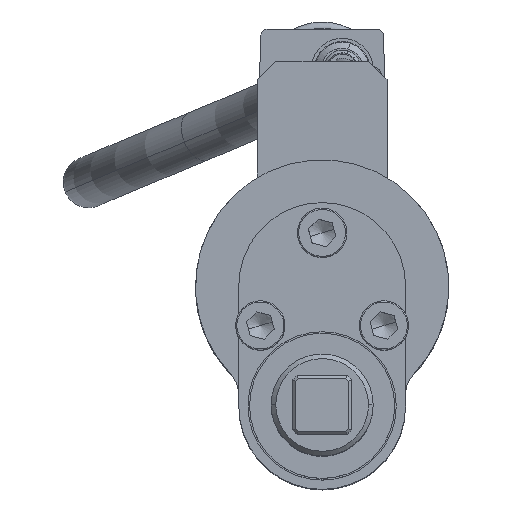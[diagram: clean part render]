
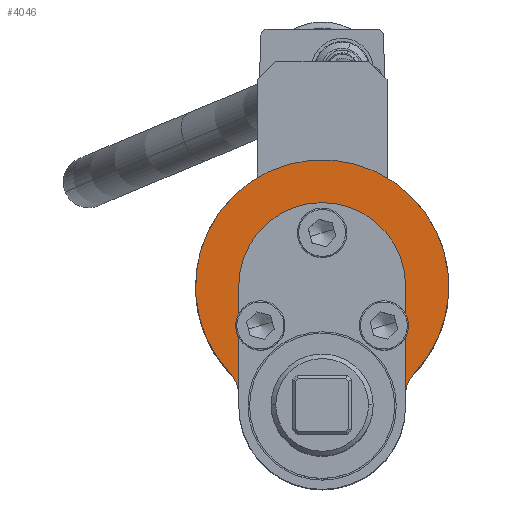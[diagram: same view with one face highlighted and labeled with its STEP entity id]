
A CAD part, top view. The second image highlights one B-rep face of the part: STEP entity #4046.
In plain terms, the highlighted planar face has unit normal (0, 0, 1).
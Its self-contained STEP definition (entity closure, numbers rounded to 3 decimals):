
#3885=AXIS2_PLACEMENT_3D('Circle Axis2P3D',#3883,#3884,$) ;
#3980=AXIS2_PLACEMENT_3D('Circle Axis2P3D',#3978,#3979,$) ;
#4004=AXIS2_PLACEMENT_3D('Circle Axis2P3D',#4002,#4003,$) ;
#4017=AXIS2_PLACEMENT_3D('Plane Axis2P3D',#4014,#4015,#4016) ;
#4028=AXIS2_PLACEMENT_3D('Circle Axis2P3D',#4026,#4027,$) ;
#3873=CARTESIAN_POINT('Vertex',(29.745,-28.218,482.6)) ;
#3880=CARTESIAN_POINT('Vertex',(-29.745,-28.218,482.6)) ;
#3883=CARTESIAN_POINT('Axis2P3D Location',(0.,0.,482.6)) ;
#3975=CARTESIAN_POINT('Vertex',(27.,-35.1,482.6)) ;
#3978=CARTESIAN_POINT('Axis2P3D Location',(37.,-35.1,482.6)) ;
#3999=CARTESIAN_POINT('Vertex',(-27.,-35.1,482.6)) ;
#4002=CARTESIAN_POINT('Axis2P3D Location',(-37.,-35.1,482.6)) ;
#4014=CARTESIAN_POINT('Axis2P3D Location',(0.,0.,482.6)) ;
#4019=CARTESIAN_POINT('Line Origine',(-27.,-17.55,482.6)) ;
#4023=CARTESIAN_POINT('Vertex',(-27.,0.,482.6)) ;
#4026=CARTESIAN_POINT('Axis2P3D Location',(0.,0.,482.6)) ;
#4030=CARTESIAN_POINT('Vertex',(27.,0.,482.6)) ;
#4033=CARTESIAN_POINT('Line Origine',(27.,-17.55,482.6)) ;
#3884=DIRECTION('Axis2P3D Direction',(0.,0.,1.)) ;
#3979=DIRECTION('Axis2P3D Direction',(0.,0.,1.)) ;
#4003=DIRECTION('Axis2P3D Direction',(0.,0.,1.)) ;
#4015=DIRECTION('Axis2P3D Direction',(0.,0.,1.)) ;
#4016=DIRECTION('Axis2P3D XDirection',(1.,0.,0.)) ;
#4020=DIRECTION('Vector Direction',(0.,-1.,0.)) ;
#4027=DIRECTION('Axis2P3D Direction',(0.,0.,1.)) ;
#4034=DIRECTION('Vector Direction',(0.,-1.,0.)) ;
#4021=VECTOR('Line Direction',#4020,1.) ;
#4035=VECTOR('Line Direction',#4034,1.) ;
#4039=ORIENTED_EDGE('',*,*,#3982,.T.) ;
#4040=ORIENTED_EDGE('',*,*,#3887,.T.) ;
#4041=ORIENTED_EDGE('',*,*,#4006,.T.) ;
#4042=ORIENTED_EDGE('',*,*,#4025,.F.) ;
#4043=ORIENTED_EDGE('',*,*,#4032,.F.) ;
#4044=ORIENTED_EDGE('',*,*,#4037,.F.) ;
#4046=ADVANCED_FACE('AO-350.1\\AO350.1\\Hauptk\X2\00F6\X0\rper',(#4045),#4018,.T.) ;
#3886=CIRCLE('generated circle',#3885,41.) ;
#3981=CIRCLE('generated circle',#3980,10.) ;
#4005=CIRCLE('generated circle',#4004,10.) ;
#4029=CIRCLE('generated circle',#4028,27.) ;
#3887=EDGE_CURVE('',#3874,#3881,#3886,.T.) ;
#3982=EDGE_CURVE('',#3976,#3874,#3981,.F.) ;
#4006=EDGE_CURVE('',#3881,#4000,#4005,.F.) ;
#4025=EDGE_CURVE('',#4024,#4000,#4022,.T.) ;
#4032=EDGE_CURVE('',#4031,#4024,#4029,.T.) ;
#4037=EDGE_CURVE('',#3976,#4031,#4036,.F.) ;
#4038=EDGE_LOOP('',(#4039,#4040,#4041,#4042,#4043,#4044)) ;
#4045=FACE_OUTER_BOUND('',#4038,.T.) ;
#4022=LINE('Line',#4019,#4021) ;
#4036=LINE('Line',#4033,#4035) ;
#4018=PLANE('Plane',#4017) ;
#3874=VERTEX_POINT('',#3873) ;
#3881=VERTEX_POINT('',#3880) ;
#3976=VERTEX_POINT('',#3975) ;
#4000=VERTEX_POINT('',#3999) ;
#4024=VERTEX_POINT('',#4023) ;
#4031=VERTEX_POINT('',#4030) ;
